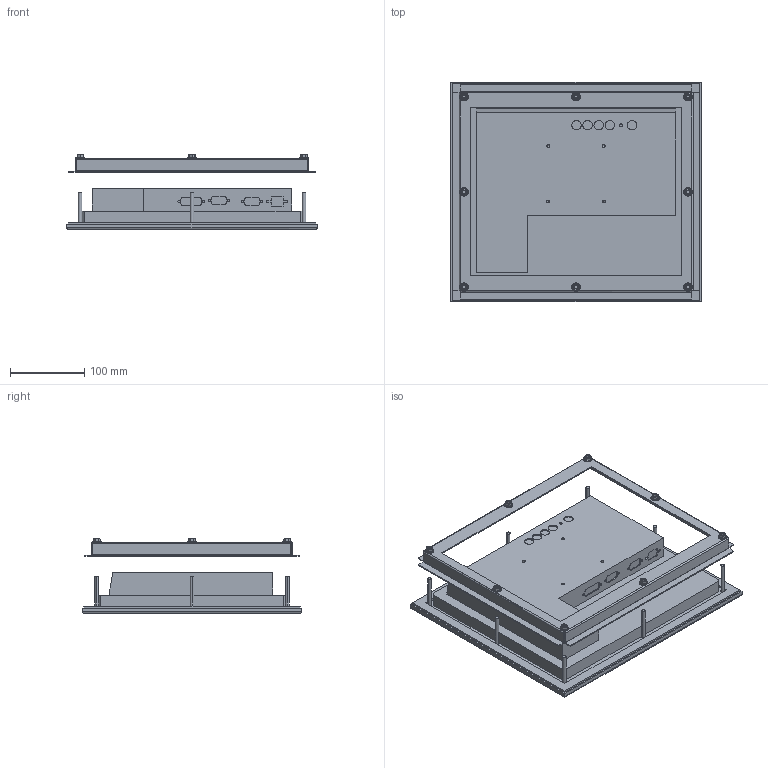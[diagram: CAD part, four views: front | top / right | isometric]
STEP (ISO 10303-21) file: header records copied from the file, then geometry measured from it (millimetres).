
FILE_DESCRIPTION (( 'STEP AP214' ), '1' );
FILE_NAME ('12 inch Panel Mount Monitor, HIS-ML12-xxxE.STEP', '2017-06-23T20:43:54', ( '' ), ( '' ), 'SwSTEP 2.0', 'SolidWorks 2017', '' );
FILE_SCHEMA (( 'AUTOMOTIVE_DESIGN' ));
Length unit declared in the file: millimetre
Products named in the file (4): Collar, 10031; Monitor, 12E; 12 inch Panel Mount Monitor, HIS-ML12-xxxE; M5 Nut, 30008_M5 Nut - 30008
Assembly tree (10 placements, depth 2):
  12 inch Panel Mount Monitor, HIS-ML12-xxxE
    Monitor, 12E
    Collar, 10031
    M5 Nut, 30008_M5 Nut - 30008  x8
Bounding box: 338.12 x 295.66 x 100.86 mm (x, y, z)
Volume: 3343747.9 mm3; surface area: 377708.7 mm2
Topology: 10 solids, 10 shells, 542 faces, 1225 edges, 734 vertices
Faces by surface type: plane 227, cylinder 139, cone 104, bspline 56, torus 16
Entity records: 9649 total; most frequent: CARTESIAN_POINT 2220, DIRECTION 1521, ORIENTED_EDGE 1454, EDGE_CURVE 727, AXIS2_PLACEMENT_3D 529, LINE 463, VECTOR 463, VERTEX_POINT 454
